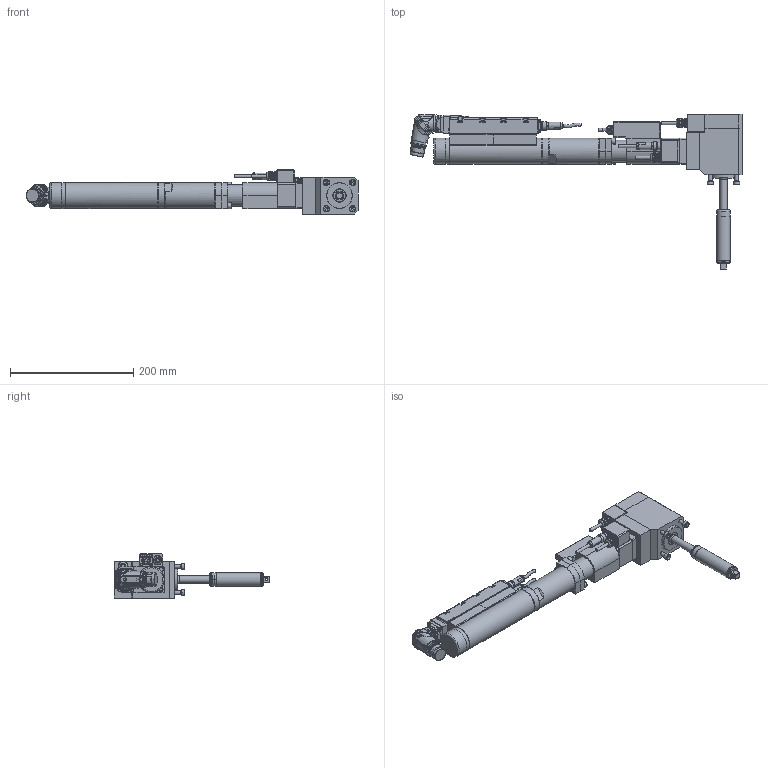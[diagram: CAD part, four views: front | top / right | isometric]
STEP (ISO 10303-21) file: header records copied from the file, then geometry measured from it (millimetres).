
FILE_DESCRIPTION (( 'STEP AP214' ), '1' );
FILE_NAME ('70082539_ESX103DRX40WX1AWDX150-40.STEP', '2016-11-15T12:13:15', ( 'admin' ), ( '' ), 'SwSTEP 2.0', 'SolidWorks 2014', '' );
FILE_SCHEMA (( 'AUTOMOTIVE_DESIGN' ));
Length unit declared in the file: millimetre
Products named in the file (12): 7002230_3; 70082300_ESX103_Standard_Winkel_2_Aufnehmer; 70082293_2; 70057493_Standard_winkel; 70057493_4; 70057493_3; 70057493_2; 70082300; 70082320; 70082360; 70082400; 70082539_ESX103DRX40WX1AWDX150-40
Assembly tree (12 placements, depth 4):
  70082539_ESX103DRX40WX1AWDX150-40
    70082400
    70082360
    70082320
    70082300_ESX103_Standard_Winkel_2_Aufnehmer
      70082300
      70057493_Standard_winkel
        70057493_2
        70057493_3
        70057493_4
      70082293_2  x2
    7002230_3
Bounding box: 538.06 x 251.4 x 71.5 mm (x, y, z)
Volume: 1503008 mm3; surface area: 201778.1 mm2
Topology: 14 solids, 41 shells, 3383 faces, 8753 edges, 5657 vertices
Faces by surface type: plane 1665, cylinder 941, cone 421, bspline 272, torus 80, sphere 4
Full cylindrical faces by diameter (mm): 0.5 x14, 0.57 x14, 2 x3, 2.5 x4, 3 x4, 3.5 x1, 4.2 x1, 4.7 x1, 4.9 x6, 5 x13, 5.5 x12, 6 x11, 6.5 x1, 6.6 x4, 8.459 x2, 8.5 x1, 8.8 x1, 10 x6, 11.08 x4, 11.2 x1, 11.43 x1, 12 x1, 12.1 x1, 12.3 x3, 12.5 x2, 14 x6, 14.5 x2, 15 x1, 16 x1, 17.4 x1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
Entity records: 112494 total; most frequent: CARTESIAN_POINT 35266, ORIENTED_EDGE 16000, DIRECTION 14306, EDGE_CURVE 8000, VERTEX_POINT 5333, AXIS2_PLACEMENT_3D 5311, EDGE_LOOP 3785, LINE 3684
